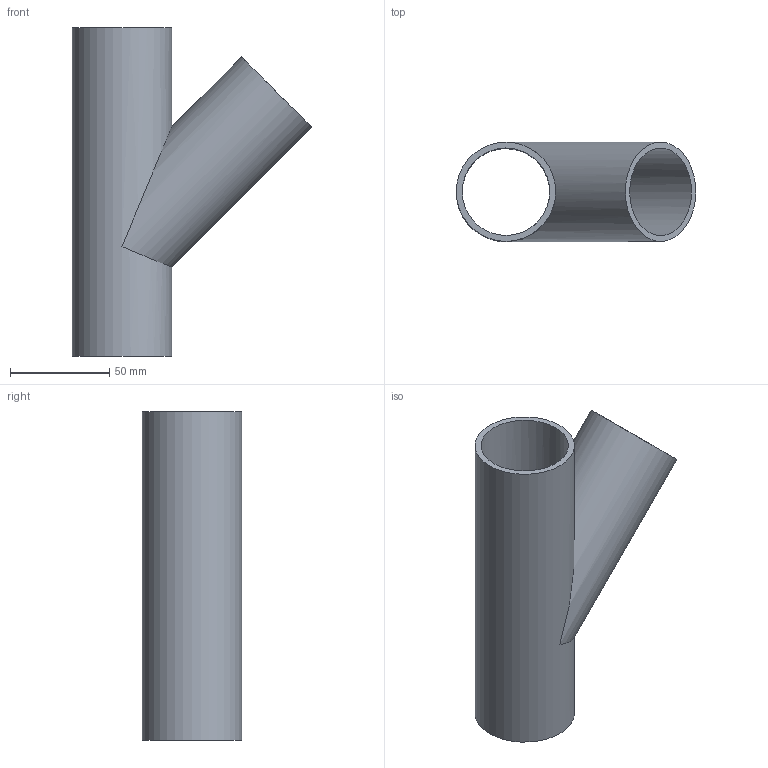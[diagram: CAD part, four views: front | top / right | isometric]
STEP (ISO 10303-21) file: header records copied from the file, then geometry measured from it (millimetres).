
FILE_DESCRIPTION(/* description */ (''),/* implementation_level */ '2;1');
FILE_NAME(/* name */ 'C:\Planerdaten\Export PLA\PRO_101557\stp\361112.stp',/* time_stamp */ '2021-09-30T15:03:37+02:00',/* author */ ('JANAN'),/* organization */ (''),/* preprocessor_version */ 'ST-DEVELOPER v16.13',/* originating_system */ 'Autodesk Inventor 2018',/* authorisation */ '');
FILE_SCHEMA (('AUTOMOTIVE_DESIGN { 1 0 10303 214 3 1 1 }'));
Length unit declared in the file: millimetre
Products named in the file (1): tmp1E67.tmp
Bounding box: 120.46 x 50 x 165 mm (x, y, z)
Volume: 103045.8 mm3; surface area: 69992.2 mm2
Topology: 1 solids, 1 shells, 7 faces, 19 edges, 14 vertices
Faces by surface type: cylinder 4, plane 3
Full cylindrical faces by diameter (mm): 44 x2, 50 x2
Entity records: 228 total; most frequent: DIRECTION 36, CARTESIAN_POINT 28, ORIENTED_EDGE 20, AXIS2_PLACEMENT_3D 18, EDGE_LOOP 16, VERTEX_POINT 10, EDGE_CURVE 10, FACE_BOUND 9
